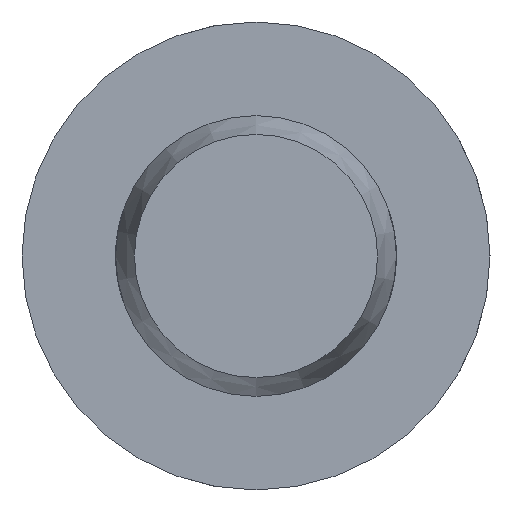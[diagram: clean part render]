
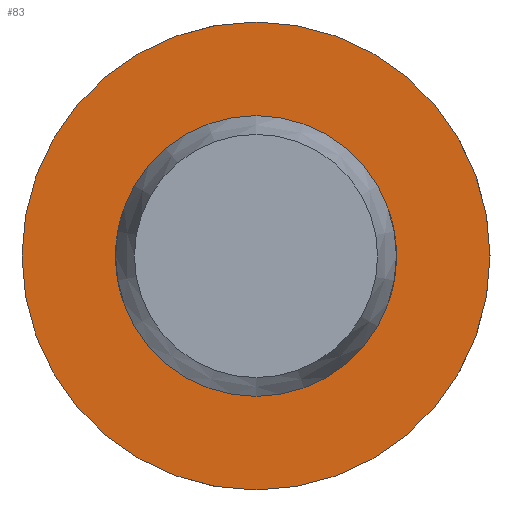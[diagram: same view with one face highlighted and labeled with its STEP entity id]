
A CAD part, left-side view. The second image highlights one B-rep face of the part: STEP entity #83.
In plain terms, the highlighted planar face has unit normal (-1, 0, 0).
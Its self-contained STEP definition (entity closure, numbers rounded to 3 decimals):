
#83 = ADVANCED_FACE( '', ( #129, #130 ), #131, .F. );
#129 = FACE_OUTER_BOUND( '', #208, .T. );
#130 = FACE_BOUND( '', #209, .T. );
#131 = PLANE( '', #210 );
#208 = EDGE_LOOP( '', ( #325 ) );
#209 = EDGE_LOOP( '', ( #326 ) );
#210 = AXIS2_PLACEMENT_3D( '', #327, #328, #329 );
#325 = ORIENTED_EDGE( '', *, *, #493, .F. );
#326 = ORIENTED_EDGE( '', *, *, #483, .T. );
#327 = CARTESIAN_POINT( '', ( 47., 3., 0. ) );
#328 = DIRECTION( '', ( 1., 0., 0. ) );
#329 = DIRECTION( '', ( 0., 0., -1. ) );
#483 = EDGE_CURVE( '', #554, #554, #555, .T. );
#493 = EDGE_CURVE( '', #572, #572, #573, .T. );
#554 = VERTEX_POINT( '', #741 );
#555 = CIRCLE( '', #742, 3. );
#572 = VERTEX_POINT( '', #850 );
#573 = CIRCLE( '', #851, 5. );
#741 = CARTESIAN_POINT( '', ( 47., 0., -3. ) );
#742 = AXIS2_PLACEMENT_3D( '', #914, #915, #916 );
#850 = CARTESIAN_POINT( '', ( 47., 0., -5. ) );
#851 = AXIS2_PLACEMENT_3D( '', #935, #936, #937 );
#914 = CARTESIAN_POINT( '', ( 47., 0., 0. ) );
#915 = DIRECTION( '', ( 1., 0., 0. ) );
#916 = DIRECTION( '', ( 0., 0., -1. ) );
#935 = CARTESIAN_POINT( '', ( 47., 0., 0. ) );
#936 = DIRECTION( '', ( 1., 0., 0. ) );
#937 = DIRECTION( '', ( 0., 0., -1. ) );
